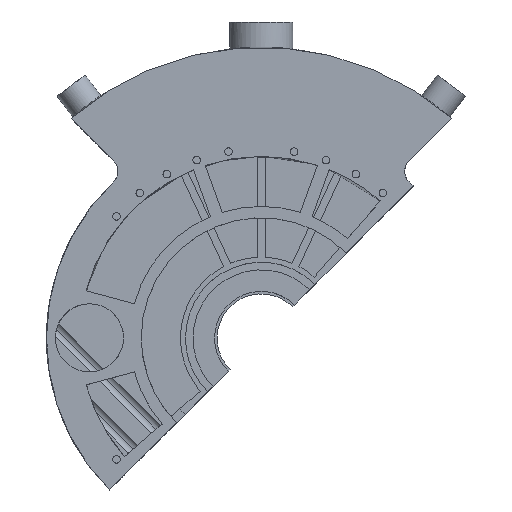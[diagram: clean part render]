
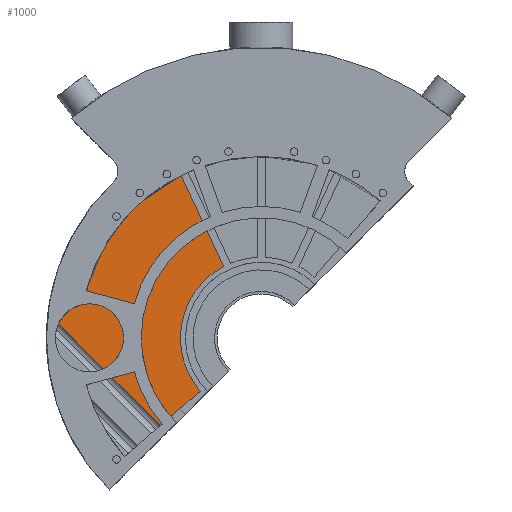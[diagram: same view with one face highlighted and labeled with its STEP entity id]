
A CAD part, top view. The second image highlights one B-rep face of the part: STEP entity #1000.
In plain terms, the highlighted planar face has unit normal (0, 0, 1).
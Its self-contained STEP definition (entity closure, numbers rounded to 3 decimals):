
#1000=ADVANCED_FACE('',(#2144),#2145,.T.);
#2144=FACE_OUTER_BOUND('',#3426,.T.);
#2145=PLANE('',#3427);
#3426=EDGE_LOOP('',(#6526,#6527,#6528,#6529,#6530,#6531,#6532));
#3427=AXIS2_PLACEMENT_3D('',#6533,#6534,#6535);
#6526=ORIENTED_EDGE('',*,*,#8986,.T.);
#6527=ORIENTED_EDGE('',*,*,#8741,.F.);
#6528=ORIENTED_EDGE('',*,*,#7762,.F.);
#6529=ORIENTED_EDGE('',*,*,#8727,.F.);
#6530=ORIENTED_EDGE('',*,*,#8837,.T.);
#6531=ORIENTED_EDGE('',*,*,#8763,.T.);
#6532=ORIENTED_EDGE('',*,*,#8987,.T.);
#6533=CARTESIAN_POINT('',(-43.892,8.738,2.0));
#6534=DIRECTION('',(0.,0.,1.0));
#6535=DIRECTION('',(1.0,0.,0.));
#7762=EDGE_CURVE('',#9386,#9389,#9390,.T.);
#8727=EDGE_CURVE('',#10931,#9386,#10933,.T.);
#8741=EDGE_CURVE('',#9389,#10954,#10955,.T.);
#8763=EDGE_CURVE('',#10984,#10982,#10985,.T.);
#8837=EDGE_CURVE('',#10931,#10984,#11086,.T.);
#8986=EDGE_CURVE('',#11263,#10954,#11264,.T.);
#8987=EDGE_CURVE('',#10982,#11263,#11265,.T.);
#9386=VERTEX_POINT('',#11733);
#9389=VERTEX_POINT('',#11737);
#9390=CIRCLE('',#11738,32.0);
#10931=VERTEX_POINT('',#15544);
#10933=CIRCLE('',#15547,32.0);
#10954=VERTEX_POINT('',#15573);
#10955=LINE('',#15574,#15575);
#10982=VERTEX_POINT('',#15610);
#10984=VERTEX_POINT('',#15613);
#10985=CIRCLE('',#15614,71.8);
#11086=LINE('',#15839,#15840);
#11263=VERTEX_POINT('',#16122);
#11264=LINE('',#16123,#16124);
#11265=CIRCLE('',#16125,13.5);
#11733=CARTESIAN_POINT('',(-32.,0.,2.0));
#11737=CARTESIAN_POINT('',(-24.151,-20.994,2.));
#11738=AXIS2_PLACEMENT_3D('',#16941,#16942,#16943);
#15544=CARTESIAN_POINT('',(-14.868,28.336,2.0));
#15547=AXIS2_PLACEMENT_3D('',#18390,#18391,#18392);
#15573=CARTESIAN_POINT('',(-39.919,-34.701,2.0));
#15574=CARTESIAN_POINT('',(-24.151,-20.994,2.));
#15575=VECTOR('',#18410,1.0);
#15610=CARTESIAN_POINT('',(-70.566,13.254,2.));
#15613=CARTESIAN_POINT('',(-31.697,64.425,2.));
#15614=AXIS2_PLACEMENT_3D('',#18438,#18439,#18440);
#15839=CARTESIAN_POINT('',(-14.868,28.336,2.0));
#15840=VECTOR('',#18545,1.0);
#16122=CARTESIAN_POINT('',(-80.264,5.644,2.0));
#16123=CARTESIAN_POINT('',(-70.236,-4.384,2.0));
#16124=VECTOR('',#18721,1.0);
#16125=AXIS2_PLACEMENT_3D('',#18722,#18723,#18724);
#16941=CARTESIAN_POINT('',(0.,0.,2.0));
#16942=DIRECTION('',(0.,0.,1.0));
#16943=DIRECTION('',(1.0,0.,0.));
#18390=CARTESIAN_POINT('',(0.,0.,2.0));
#18391=DIRECTION('',(0.,0.,1.0));
#18392=DIRECTION('',(1.0,0.,0.));
#18410=DIRECTION('',(-0.755,-0.656,0.));
#18438=CARTESIAN_POINT('',(0.,0.,2.0));
#18439=DIRECTION('',(0.,0.,1.0));
#18440=DIRECTION('',(1.0,0.,0.));
#18545=DIRECTION('',(-0.423,0.906,0.));
#18721=DIRECTION('',(0.707,-0.707,0.));
#18722=CARTESIAN_POINT('',(-68.,0.,2.0));
#18723=DIRECTION('',(0.,0.,1.0));
#18724=DIRECTION('',(1.0,0.,0.));
